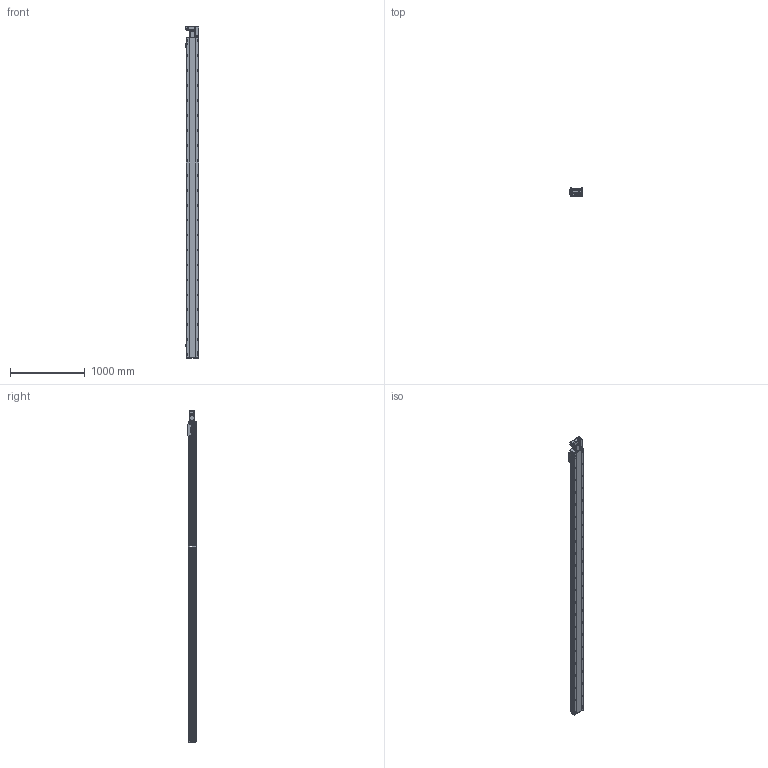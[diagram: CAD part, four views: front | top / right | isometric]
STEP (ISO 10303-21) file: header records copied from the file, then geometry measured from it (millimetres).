
FILE_DESCRIPTION (( 'STEP AP214' ), '1' );
FILE_NAME ('RTB17S-XX-4000-R-M40-C4.STEP', '2025-12-11T08:06:21', ( '' ), ( '' ), 'SwSTEP 2.0', 'SolidWorks 2018', '' );
FILE_SCHEMA (( 'AUTOMOTIVE_DESIGN' ));
Length unit declared in the file: millimetre
Products named in the file (14): RTB17S-R-々湍釱蚾饜-400W^RTB17S-XX-XX-R-M40-C4; RTB17S-L-004佪裝蹟譫蟀諉釱^RTB17S-XX-XX-R-M40-C4; RTB14-L-005P--轴承塑胶压盖^RTB17S-R-皮带座装配-400W_RTB17S-XX-XX-R-M40-C4; RTB14-L-008-M20--萇儂啣^RTB17S-R-々湍釱蚾饜-400W_RTB17S-XX-XX-R-M40-C4; RTB17S-L-001耜醱啣^RTB17S-XX-XX-R-M40-C4; RTB14-L-018P^RTB17S-R-々湍釱蚾饜-400W_RTB17S-XX-XX-R-M40-C4; RTH13-BL-012覜茼え俋离^RTB17S-XX-XX-R-M40-C4; RTB17S-L-014-T20--々湍釱^RTB17S-R-々湍釱蚾饜-400W_RTB17S-XX-XX-R-M40-C4; OMRON EE-SX672 传感器^RTB17S-XX-XX-R-M40-C4; RTB17S-L-007奻裔^RTB17S-XX-XX-R-M40-C4; RTB17S-XX-4000-R-M40-C4; RTB14-L-017P^RTB17S-R-々湍釱蚾饜-400W_RTB17S-XX-XX-R-M40-C4; RTB17-R-011菁釱^RTB17S-XX-XX-R-M40-C4; 400W侜督萇儂^RTB17S-XX-XX-R-M40-C4
Assembly tree (16 placements, depth 3):
  RTB17S-XX-4000-R-M40-C4
    RTB17-R-011菁釱^RTB17S-XX-XX-R-M40-C4
    RTB17S-L-007奻裔^RTB17S-XX-XX-R-M40-C4
    OMRON EE-SX672 传感器^RTB17S-XX-XX-R-M40-C4  x3
    RTB17S-L-001耜醱啣^RTB17S-XX-XX-R-M40-C4
    400W侜督萇儂^RTB17S-XX-XX-R-M40-C4
    RTB17S-L-004佪裝蹟譫蟀諉釱^RTB17S-XX-XX-R-M40-C4
    RTH13-BL-012覜茼え俋离^RTB17S-XX-XX-R-M40-C4
    RTB17S-R-々湍釱蚾饜-400W^RTB17S-XX-XX-R-M40-C4
      RTB17S-L-014-T20--々湍釱^RTB17S-R-々湍釱蚾饜-400W_RTB17S-XX-XX-R-M40-C4
      RTB14-L-005P--轴承塑胶压盖^RTB17S-R-皮带座装配-400W_RTB17S-XX-XX-R-M40-C4
      RTB14-L-008-M20--萇儂啣^RTB17S-R-々湍釱蚾饜-400W_RTB17S-XX-XX-R-M40-C4
      RTB14-L-017P^RTB17S-R-々湍釱蚾饜-400W_RTB17S-XX-XX-R-M40-C4  x2
      RTB14-L-018P^RTB17S-R-々湍釱蚾饜-400W_RTB17S-XX-XX-R-M40-C4
Bounding box: 183.5 x 108 x 4441 mm (x, y, z)
Volume: 36841700.2 mm3; surface area: 4165039.7 mm2
Topology: 15 solids, 15 shells, 2445 faces, 6897 edges, 4509 vertices
Faces by surface type: plane 1098, cylinder 899, bspline 301, cone 139, torus 8
Entity records: 74153 total; most frequent: CARTESIAN_POINT 21302, ORIENTED_EDGE 10638, DIRECTION 9746, EDGE_CURVE 5319, VERTEX_POINT 3497, AXIS2_PLACEMENT_3D 3427, VECTOR 2892, LINE 2892
